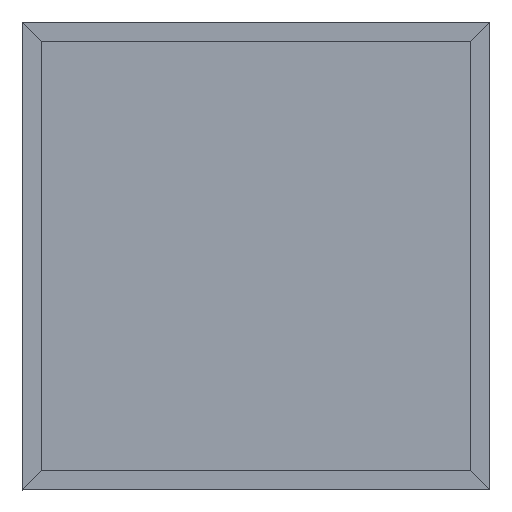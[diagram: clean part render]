
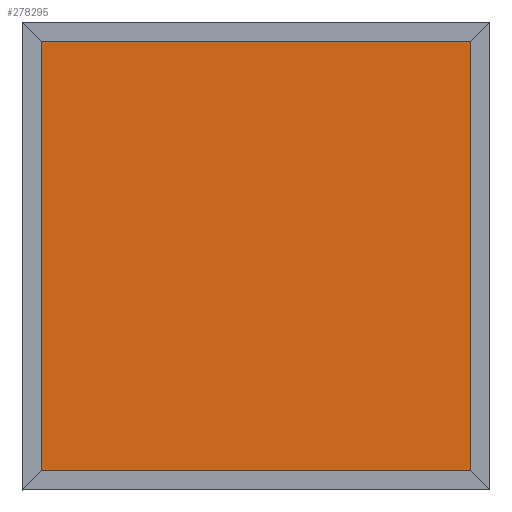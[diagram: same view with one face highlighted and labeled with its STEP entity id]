
A CAD part, front view. The second image highlights one B-rep face of the part: STEP entity #278295.
In plain terms, the highlighted planar face has unit normal (0, -1, 0).
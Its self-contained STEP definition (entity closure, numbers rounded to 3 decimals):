
#2629 = LINE ( 'NONE', #37436, #288679 ) ;
#16115 = EDGE_CURVE ( 'NONE', #124930, #46810, #2629, .T. ) ;
#29987 = LINE ( 'NONE', #153392, #202468 ) ;
#30608 = VERTEX_POINT ( 'NONE', #292173 ) ;
#35684 = EDGE_CURVE ( 'NONE', #46810, #256215, #122611, .T. ) ;
#37436 = CARTESIAN_POINT ( 'NONE',  ( 595., 2.6, -585.2 ) ) ;
#46810 = VERTEX_POINT ( 'NONE', #159316 ) ;
#67818 = FACE_OUTER_BOUND ( 'NONE', #113249, .T. ) ;
#78760 = DIRECTION ( 'NONE',  ( 0., 1., 0. ) ) ;
#81421 = ORIENTED_EDGE ( 'NONE', *, *, #35684, .F. ) ;
#82489 = CARTESIAN_POINT ( 'NONE',  ( 14.8, 2.6, 25. ) ) ;
#110831 = AXIS2_PLACEMENT_3D ( 'NONE', #158523, #78760, #180435 ) ;
#113249 = EDGE_LOOP ( 'NONE', ( #148177, #224444, #81421, #132542 ) ) ;
#122611 = LINE ( 'NONE', #82489, #314675 ) ;
#124930 = VERTEX_POINT ( 'NONE', #253752 ) ;
#132315 = PLANE ( 'NONE',  #110831 ) ;
#132542 = ORIENTED_EDGE ( 'NONE', *, *, #16115, .F. ) ;
#134944 = DIRECTION ( 'NONE',  ( 0., 0., 1. ) ) ;
#148177 = ORIENTED_EDGE ( 'NONE', *, *, #185253, .F. ) ;
#153392 = CARTESIAN_POINT ( 'NONE',  ( 585.2, 2.6, 25. ) ) ;
#158523 = CARTESIAN_POINT ( 'NONE',  ( 595., 2.6, 25. ) ) ;
#159316 = CARTESIAN_POINT ( 'NONE',  ( 14.8, 2.6, -585.2 ) ) ;
#180435 = DIRECTION ( 'NONE',  ( 0., 0., 1. ) ) ;
#185253 = EDGE_CURVE ( 'NONE', #30608, #124930, #29987, .T. ) ;
#202468 = VECTOR ( 'NONE', #231130, 1000. ) ;
#210700 = VECTOR ( 'NONE', #302421, 1000. ) ;
#213055 = CARTESIAN_POINT ( 'NONE',  ( 14.8, 2.6, -12.3 ) ) ;
#224444 = ORIENTED_EDGE ( 'NONE', *, *, #244008, .F. ) ;
#227827 = CARTESIAN_POINT ( 'NONE',  ( 595., 2.6, -12.3 ) ) ;
#231130 = DIRECTION ( 'NONE',  ( 0., 0., -1. ) ) ;
#242206 = DIRECTION ( 'NONE',  ( -1., 0., 0. ) ) ;
#244008 = EDGE_CURVE ( 'NONE', #256215, #30608, #273351, .T. ) ;
#253752 = CARTESIAN_POINT ( 'NONE',  ( 585.2, 2.6, -585.2 ) ) ;
#256215 = VERTEX_POINT ( 'NONE', #213055 ) ;
#273351 = LINE ( 'NONE', #227827, #210700 ) ;
#278295 = ADVANCED_FACE ( 'NONE', ( #67818 ), #132315, .F. ) ;
#288679 = VECTOR ( 'NONE', #242206, 1000. ) ;
#292173 = CARTESIAN_POINT ( 'NONE',  ( 585.2, 2.6, -12.3 ) ) ;
#302421 = DIRECTION ( 'NONE',  ( 1., 0., 0. ) ) ;
#314675 = VECTOR ( 'NONE', #134944, 1000. ) ;
